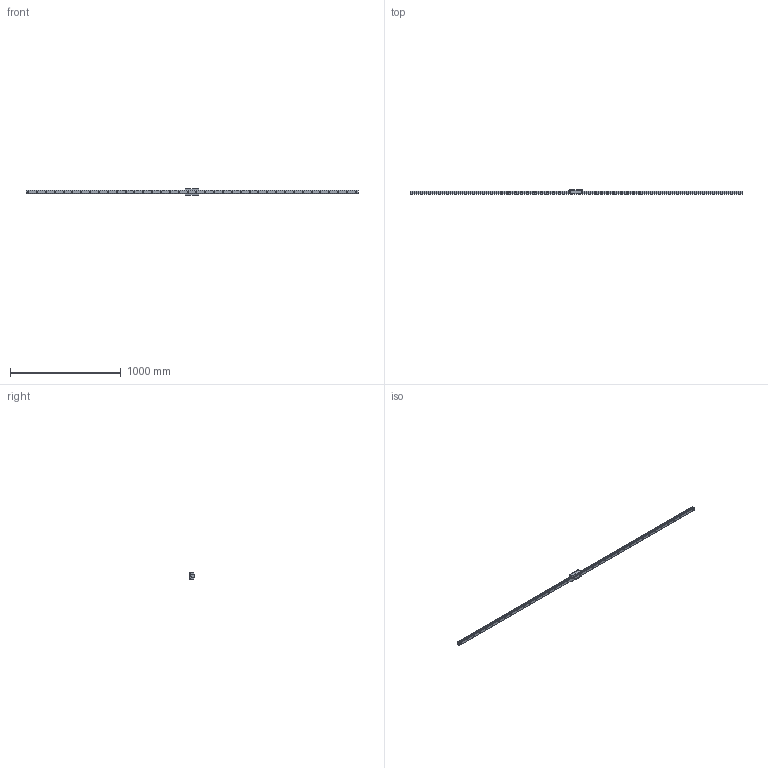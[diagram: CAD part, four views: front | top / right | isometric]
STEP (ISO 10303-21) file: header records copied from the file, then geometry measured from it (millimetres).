
FILE_DESCRIPTION(/* description */ ('STEP AP214'),/* implementation_level */ '2;1');
FILE_NAME(/* name */ 'HDR30LV1SS-3000L_G20_0_B-M6F_1437-95_0_0_01',/* time_stamp */ '2023-06-30T13:04:15+02:00',/* author */ ('License CC BY-ND 4.0'),/* organization */ ('CADENAS'),/* preprocessor_version */ 'ST-DEVELOPER v19.3',/* originating_system */ 'PARTsolutions',/* authorisation */ ' ');
FILE_SCHEMA (('AUTOMOTIVE_DESIGN {1 0 10303 214 3 1 1}'));
Length unit declared in the file: millimetre
Products named in the file (4): HDR30LV1SS-3000L_G20_0_B-M6F_1437-95_0_0_01; hsr_ftht_B-M6F_grease_nipple_joint; HDR30LVSSB-M6F1 Slider; HDR30LV1300020 Rail
Assembly tree (3 placements, depth 2):
  HDR30LV1SS-3000L_G20_0_B-M6F_1437-95_0_0_01
    hsr_ftht_B-M6F_grease_nipple_joint
    HDR30LVSSB-M6F1 Slider
    HDR30LV1300020 Rail
Bounding box: 3000 x 42 x 60 mm (x, y, z)
Volume: 1987783 mm3; surface area: 410247.8 mm2
Topology: 3 solids, 3 shells, 332 faces, 814 edges, 531 vertices
Faces by surface type: plane 166, cylinder 136, cone 25, sphere 3, torus 2
Full cylindrical faces by diameter (mm): 4.917 x2, 5.2 x4, 6 x1, 6.647 x6, 8 x1, 9 x38, 14 x38
Entity records: 9459 total; most frequent: CARTESIAN_POINT 1647, DIRECTION 1634, ORIENTED_EDGE 1372, EDGE_CURVE 686, AXIS2_PLACEMENT_3D 636, FACE_BOUND 573, EDGE_LOOP 565, VERTEX_POINT 525
